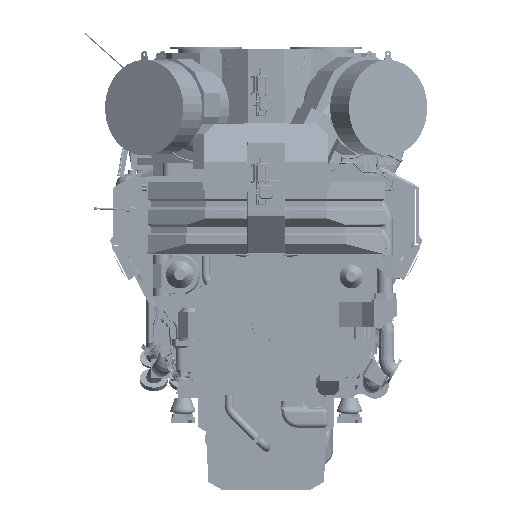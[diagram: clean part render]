
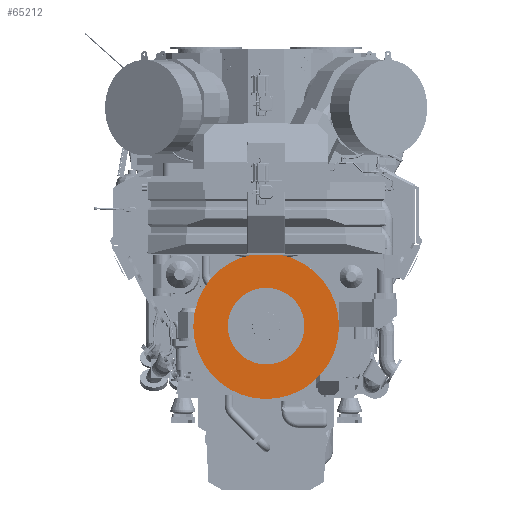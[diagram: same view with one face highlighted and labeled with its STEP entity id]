
A CAD part, left-side view. The second image highlights one B-rep face of the part: STEP entity #65212.
In plain terms, the highlighted planar face has unit normal (-1, 0, 0).
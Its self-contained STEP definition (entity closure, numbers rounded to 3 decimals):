
#24831=CIRCLE('',#350989,656.);
#24833=CIRCLE('',#350992,345.);
#30321=FACE_BOUND('',#103290,.T.);
#30322=FACE_BOUND('',#103291,.T.);
#46697=PLANE('',#350993);
#65212=ADVANCED_FACE('',(#30321,#30322),#46697,.F.);
#103290=EDGE_LOOP('',(#243339));
#103291=EDGE_LOOP('',(#243340));
#243339=ORIENTED_EDGE('',*,*,#316910,.T.);
#243340=ORIENTED_EDGE('',*,*,#316908,.F.);
#272653=VERTEX_POINT('',#681084);
#272655=VERTEX_POINT('',#681089);
#316908=EDGE_CURVE('',#272653,#272653,#24831,.T.);
#316910=EDGE_CURVE('',#272655,#272655,#24833,.T.);
#350989=AXIS2_PLACEMENT_3D('',#681083,#434784,#434785);
#350992=AXIS2_PLACEMENT_3D('',#681088,#434790,#434791);
#350993=AXIS2_PLACEMENT_3D('',#681090,#434792,#434793);
#434784=DIRECTION('',(1.,0.,0.));
#434785=DIRECTION('',(0.,1.,0.));
#434790=DIRECTION('',(1.,0.,0.));
#434791=DIRECTION('',(0.,1.,0.));
#434792=DIRECTION('',(1.,0.,0.));
#434793=DIRECTION('',(0.,0.,-1.));
#681083=CARTESIAN_POINT('',(0.,0.,0.));
#681084=CARTESIAN_POINT('',(0.,656.,0.));
#681088=CARTESIAN_POINT('',(0.,0.,0.));
#681089=CARTESIAN_POINT('',(0.,345.,0.));
#681090=CARTESIAN_POINT('',(0.,0.,0.));
